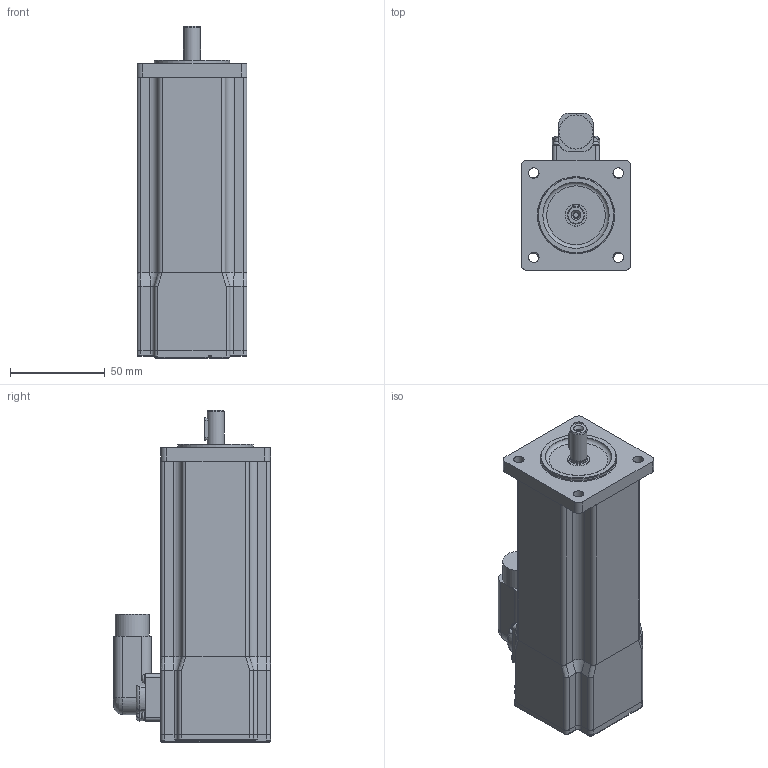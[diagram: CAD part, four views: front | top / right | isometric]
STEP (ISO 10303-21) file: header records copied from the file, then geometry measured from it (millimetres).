
FILE_DESCRIPTION(/* description */ (''),/* implementation_level */ '2;1');
FILE_NAME(/* name */ 'C:\Autodesk Vault\AUTODESK_VAULT\CAD\000-FERTIG Motors\BM055\_Gesamtbaugruppen\vereinfachte_Modelle\AM8123-xx10-0000.stp',/* time_stamp */ '2021-01-19T14:58:00+01:00',/* author */ ('NicoleM'),/* organization */ ('FERTIG Motors'),/* preprocessor_version */ 'ST-DEVELOPER v18.1',/* originating_system */ 'Autodesk Inventor 2020',/* authorisation */ '');
FILE_SCHEMA (('CONFIG_CONTROL_DESIGN'));
Length unit declared in the file: millimetre
Products named in the file (4): BM055-VM-01; BM055-VM-00; Intercontec-EEDC201NN00000805000_VM; DIN 6885-A3x3x12
Assembly tree (3 placements, depth 2):
  BM055-VM-01
    BM055-VM-00
    Intercontec-EEDC201NN00000805000_VM
    DIN 6885-A3x3x12
Bounding box: 58 x 83 x 175.5 mm (x, y, z)
Volume: 477682.4 mm3; surface area: 47756.6 mm2
Topology: 3 solids, 3 shells, 360 faces, 890 edges, 553 vertices
Faces by surface type: plane 185, cylinder 96, bspline 52, torus 21, cone 6
Full cylindrical faces by diameter (mm): 2.5 x1, 3.2 x1, 4.5 x2, 5.5 x4, 8.6 x1, 9 x1, 18 x1, 20.1 x1, 35 x1, 40 x1
Entity records: 11614 total; most frequent: CARTESIAN_POINT 2767, ORIENTED_EDGE 1772, DIRECTION 1670, EDGE_CURVE 886, AXIS2_PLACEMENT_3D 557, LINE 556, VECTOR 556, VERTEX_POINT 553
